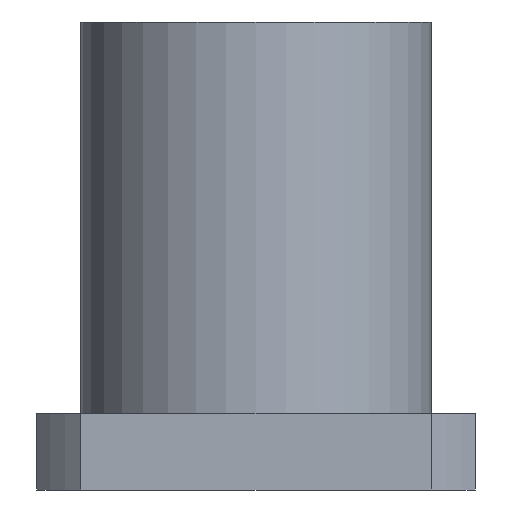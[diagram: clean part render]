
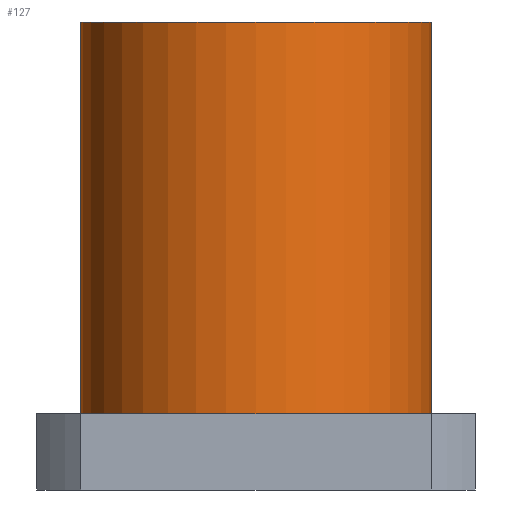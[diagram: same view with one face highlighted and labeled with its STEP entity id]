
A CAD part, front view. The second image highlights one B-rep face of the part: STEP entity #127.
In plain terms, the highlighted cylindrical face has radius 30 mm (diameter 60 mm), a partial arc.
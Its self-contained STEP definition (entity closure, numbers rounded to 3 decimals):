
#86=CARTESIAN_POINT('',(-14.031,3.294,0.0));
#87=DIRECTION('',(0.0,0.0,1.0));
#88=DIRECTION('',(-1.0,0.0,0.0));
#89=AXIS2_PLACEMENT_3D('',#86,#87,#88);
#90=CYLINDRICAL_SURFACE('',#89,30.0);
#91=CARTESIAN_POINT('',(-44.031,3.294,13.0));
#92=VERTEX_POINT('',#91);
#93=CARTESIAN_POINT('',(-44.031,3.294,80.0));
#94=VERTEX_POINT('',#93);
#95=CARTESIAN_POINT('',(-44.031,3.294,13.0));
#96=DIRECTION('',(0.0,0.0,1.0));
#97=VECTOR('',#96,67.0);
#98=LINE('',#95,#97);
#99=EDGE_CURVE('',#92,#94,#98,.T.);
#100=ORIENTED_EDGE('',*,*,#99,.F.);
#101=CARTESIAN_POINT('',(15.969,3.294,13.0));
#102=VERTEX_POINT('',#101);
#103=CARTESIAN_POINT('',(-14.031,3.294,13.0));
#104=DIRECTION('',(0.0,0.0,-1.0));
#105=DIRECTION('',(-1.0,0.0,0.0));
#106=AXIS2_PLACEMENT_3D('',#103,#104,#105);
#107=CIRCLE('',#106,30.0);
#108=EDGE_CURVE('',#102,#92,#107,.T.);
#109=ORIENTED_EDGE('',*,*,#108,.F.);
#110=CARTESIAN_POINT('',(15.969,3.294,80.0));
#111=VERTEX_POINT('',#110);
#112=CARTESIAN_POINT('',(15.969,3.294,80.0));
#113=DIRECTION('',(0.0,0.0,-1.0));
#114=VECTOR('',#113,67.0);
#115=LINE('',#112,#114);
#116=EDGE_CURVE('',#111,#102,#115,.T.);
#117=ORIENTED_EDGE('',*,*,#116,.F.);
#118=CARTESIAN_POINT('',(-14.031,3.294,80.0));
#119=DIRECTION('',(0.0,0.0,-1.0));
#120=DIRECTION('',(-1.0,0.0,0.0));
#121=AXIS2_PLACEMENT_3D('',#118,#119,#120);
#122=CIRCLE('',#121,30.0);
#123=EDGE_CURVE('',#111,#94,#122,.T.);
#124=ORIENTED_EDGE('',*,*,#123,.T.);
#125=EDGE_LOOP('',(#100,#109,#117,#124));
#126=FACE_OUTER_BOUND('',#125,.T.);
#127=ADVANCED_FACE('',(#126),#90,.T.);
